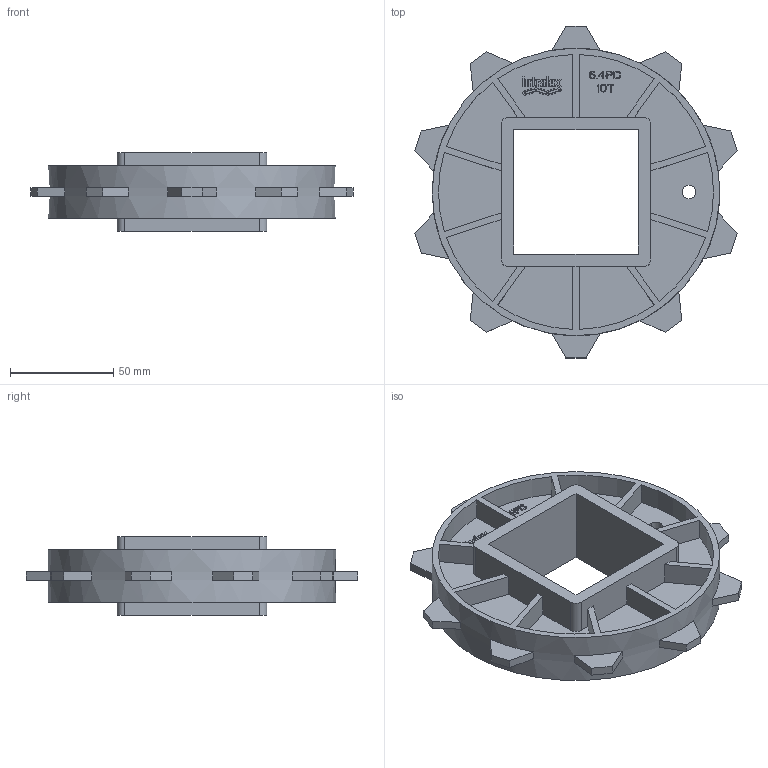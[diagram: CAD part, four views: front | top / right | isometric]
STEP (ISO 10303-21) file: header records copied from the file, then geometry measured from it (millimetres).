
FILE_DESCRIPTION((''),'2;1');
FILE_NAME('S400_SPROCKET_64X25_60_SQ','2008-12-12T',('jmumphre'),(''),'PRO/ENGINEER BY PARAMETRIC TECHNOLOGY CORPORATION, 2008150','PRO/ENGINEER BY PARAMETRIC TECHNOLOGY CORPORATION, 2008150','');
FILE_SCHEMA(('CONFIG_CONTROL_DESIGN'));
Length unit declared in the file: inch
Products named in the file (1): S400_SPROCKET_64X25_60_SQ
Bounding box: 155.61 x 160.42 x 37.85 mm (x, y, z)
Volume: 157913.7 mm3; surface area: 75238.6 mm2
Topology: 1 solids, 1 shells, 594 faces, 1653 edges, 1102 vertices
Faces by surface type: plane 458, cylinder 136
Entity records: 18957 total; most frequent: CARTESIAN_POINT 3349, ORIENTED_EDGE 3306, DIRECTION 3133, EDGE_CURVE 1653, VECTOR 1361, LINE 1361, VERTEX_POINT 1102, AXIS2_PLACEMENT_3D 886
